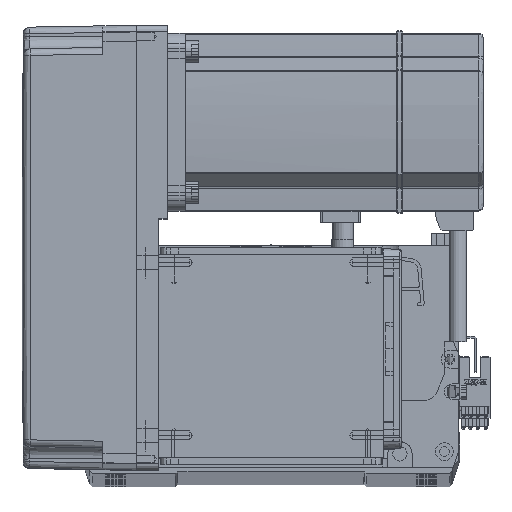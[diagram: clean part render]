
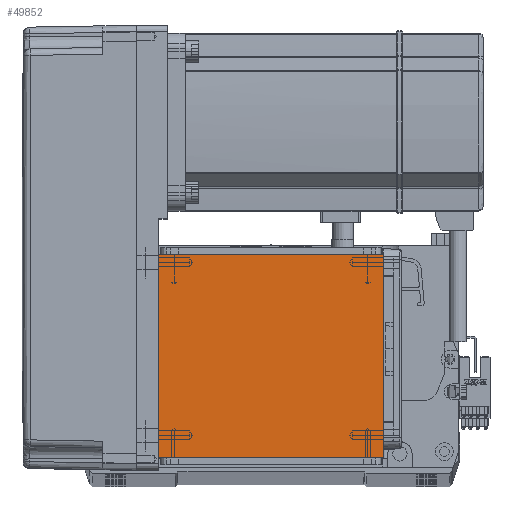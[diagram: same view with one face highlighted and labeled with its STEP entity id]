
A CAD part, top view. The second image highlights one B-rep face of the part: STEP entity #49852.
In plain terms, the highlighted planar face has unit normal (0, 0, 1).
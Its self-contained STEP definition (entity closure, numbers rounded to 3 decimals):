
#1713 = LINE ( 'NONE', #15336, #48178 ) ;
#3722 = CARTESIAN_POINT ( 'NONE',  ( 0., 0., 115. ) ) ;
#3882 = ORIENTED_EDGE ( 'NONE', *, *, #58650, .F. ) ;
#4950 = CARTESIAN_POINT ( 'NONE',  ( 50.5, 111.5, 115. ) ) ;
#8027 = DIRECTION ( 'NONE',  ( 1., 0., 0. ) ) ;
#12779 = DIRECTION ( 'NONE',  ( -1., 0., 0. ) ) ;
#13198 = VERTEX_POINT ( 'NONE', #58977 ) ;
#14266 = EDGE_LOOP ( 'NONE', ( #3882, #60804, #35019, #39212 ) ) ;
#15336 = CARTESIAN_POINT ( 'NONE',  ( -70.004, 111.5, 115. ) ) ;
#18409 = CARTESIAN_POINT ( 'NONE',  ( -50.5, 122., 115. ) ) ;
#18952 = AXIS2_PLACEMENT_3D ( 'NONE', #3722, #19447, #8027 ) ;
#19447 = DIRECTION ( 'NONE',  ( 0., 0., 1. ) ) ;
#19809 = DIRECTION ( 'NONE',  ( 0., 1., 0. ) ) ;
#21256 = LINE ( 'NONE', #18409, #52896 ) ;
#23857 = DIRECTION ( 'NONE',  ( 0., -1., 0. ) ) ;
#24055 = EDGE_CURVE ( 'NONE', #39315, #24772, #50629, .T. ) ;
#24586 = VECTOR ( 'NONE', #12779, 1000. ) ;
#24772 = VERTEX_POINT ( 'NONE', #28265 ) ;
#28265 = CARTESIAN_POINT ( 'NONE',  ( -50.5, 20., 115. ) ) ;
#28733 = CARTESIAN_POINT ( 'NONE',  ( -70.004, 20., 115. ) ) ;
#34905 = PLANE ( 'NONE',  #18952 ) ;
#35019 = ORIENTED_EDGE ( 'NONE', *, *, #24055, .F. ) ;
#39212 = ORIENTED_EDGE ( 'NONE', *, *, #53655, .T. ) ;
#39315 = VERTEX_POINT ( 'NONE', #54996 ) ;
#40725 = CARTESIAN_POINT ( 'NONE',  ( 50.5, 122., 115. ) ) ;
#45146 = FACE_OUTER_BOUND ( 'NONE', #14266, .T. ) ;
#46947 = VERTEX_POINT ( 'NONE', #4950 ) ;
#48036 = VECTOR ( 'NONE', #19809, 1000. ) ;
#48178 = VECTOR ( 'NONE', #51477, 1000. ) ;
#49852 = ADVANCED_FACE ( 'NONE', ( #45146 ), #34905, .T. ) ;
#50629 = LINE ( 'NONE', #28733, #24586 ) ;
#51477 = DIRECTION ( 'NONE',  ( 1., 0., 0. ) ) ;
#52840 = EDGE_CURVE ( 'NONE', #13198, #24772, #21256, .T. ) ;
#52896 = VECTOR ( 'NONE', #23857, 1000. ) ;
#52900 = LINE ( 'NONE', #40725, #48036 ) ;
#53655 = EDGE_CURVE ( 'NONE', #39315, #46947, #52900, .T. ) ;
#54996 = CARTESIAN_POINT ( 'NONE',  ( 50.5, 20., 115. ) ) ;
#58650 = EDGE_CURVE ( 'NONE', #13198, #46947, #1713, .T. ) ;
#58977 = CARTESIAN_POINT ( 'NONE',  ( -50.5, 111.5, 115. ) ) ;
#60804 = ORIENTED_EDGE ( 'NONE', *, *, #52840, .T. ) ;
